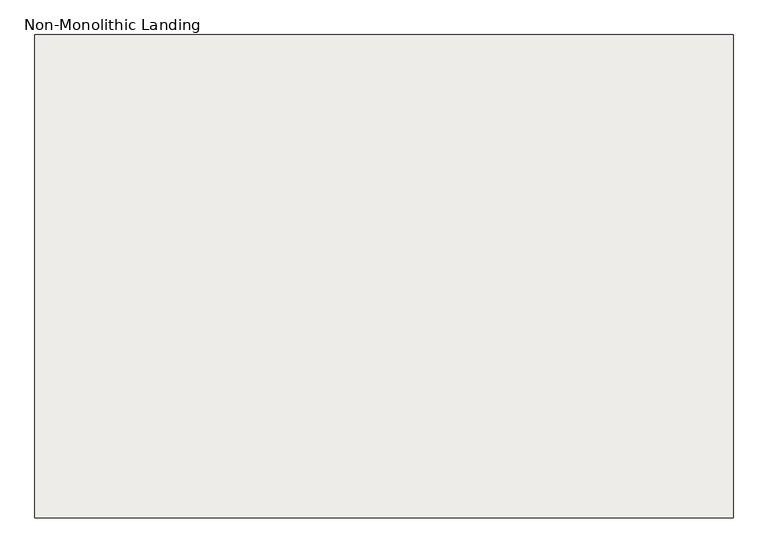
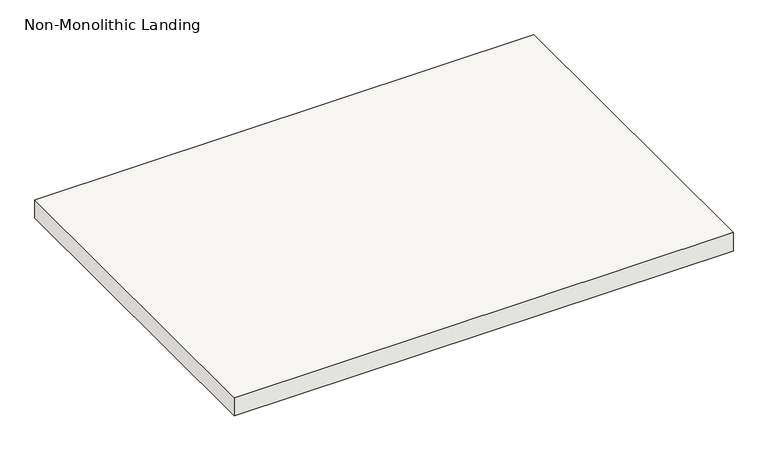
"""IFC4 building model written with IfcOpenShell, lengths in millimetres: slab geometry, Non-Monolithic Landing."""

from ifc_helpers import new_model, si_unit, frame, origin, place, context, project, spatial, polyline, outline, extrude, source, transform, mapped, element, save


def non_monolithic_landing_c8949c82(model_context):
    return source(origin(), model_context, "Body", "SweptSolid", [
        extrude(outline(polyline([(35165.5266433, -10407.0469585), (36486.3266433, -10407.0469585), (36486.3266433, -11321.4469585), (35165.5266433, -11321.4469585), (35165.5266433, -10407.0469585)])), frame((0.0, 0.0, 2126.3428571), z_axis=(0.0, 0.0, 1.0), x_axis=(1.0, 0.0, 0.0)), (0.0, 0.0, 1.0), 50.8),
    ])


if __name__ == "__main__":
    model = new_model("IFC4")
    model_context = context("Model", 3, world=origin())
    ifc_project = project(units=[si_unit("LENGTHUNIT", "METRE", prefix="MILLI")], contexts=[model_context])
    site = spatial("IfcSite", under=ifc_project)
    building = spatial("IfcBuilding", under=site)
    placement = place(None, origin())
    non_monolithic_landing_shape = non_monolithic_landing_c8949c82(model_context)
    element("IfcSlab", 1, ObjectType="Non-Monolithic Landing", at=placement, inside=building, context=model_context, shape_type="MappedRepresentation", body=[
        mapped(non_monolithic_landing_shape, transform((0.0, 0.0, 0.0), x_axis=(1.0, 0.0, 0.0), y_axis=(0.0, 1.0, 0.0), z_axis=(0.0, 0.0, 1.0))),
    ])
    save(model, "model.ifc")
